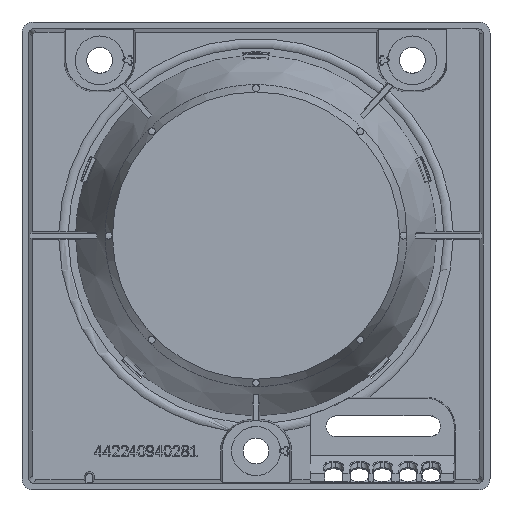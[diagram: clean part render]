
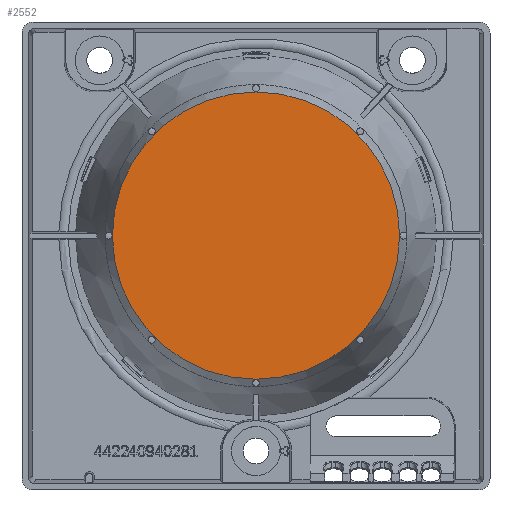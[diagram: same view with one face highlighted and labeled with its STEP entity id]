
A CAD part, front view. The second image highlights one B-rep face of the part: STEP entity #2552.
In plain terms, the highlighted planar face has unit normal (0, -1, 0).
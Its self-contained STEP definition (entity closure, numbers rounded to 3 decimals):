
#1635=FACE_OUTER_BOUND('',#6175,.T.);
#2552=ADVANCED_FACE('',(#1635),#2925,.T.);
#2925=PLANE('',#17452);
#6175=EDGE_LOOP('',(#10945));
#10945=ORIENTED_EDGE('',*,*,#14834,.T.);
#12449=VERTEX_POINT('',#36945);
#14834=EDGE_CURVE('',#12449,#12449,#16009,.T.);
#16009=CIRCLE('',#17451,30.9);
#17451=AXIS2_PLACEMENT_3D('',#36944,#21372,#21373);
#17452=AXIS2_PLACEMENT_3D('',#36946,#21374,#21375);
#21372=DIRECTION('',(0.,-1.,0.));
#21373=DIRECTION('',(-0.837,0.,-0.547));
#21374=DIRECTION('',(0.,-1.,0.));
#21375=DIRECTION('',(-0.837,0.,-0.547));
#36944=CARTESIAN_POINT('',(0.,18.9,10.));
#36945=CARTESIAN_POINT('',(-25.869,18.9,-6.901));
#36946=CARTESIAN_POINT('',(0.,18.9,10.));
